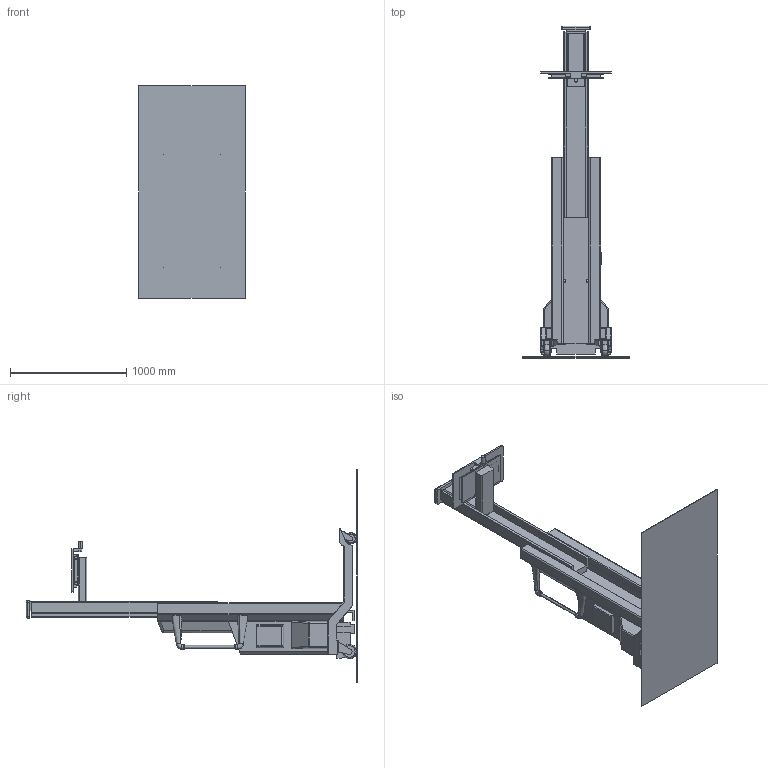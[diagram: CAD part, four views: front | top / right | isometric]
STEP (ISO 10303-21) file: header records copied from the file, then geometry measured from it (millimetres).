
FILE_DESCRIPTION (( 'STEP AP203' ), '1' );
FILE_NAME ('Simplified_SL-500X_Fully_Raised_Position_10-27-2023.STEP', '2023-10-27T22:20:38', ( '' ), ( '' ), 'SwSTEP 2.0', 'SolidWorks 2021', '' );
FILE_SCHEMA (( 'CONFIG_CONTROL_DESIGN' ));
Length unit declared in the file: millimetre
Products named in the file (12): RT-23168 Simplified Base Frame, SL500X; RT-23172 Simplified Caster, 5inch; RT-23166 Simplified Outer Column, SL500X; RT-23174 Platform Frame, Simplified, Side Loader; RT-23176 Assy, Simplified Side Loader Platform_Center; RT-23175 Platform Surface, Simplified, Side Loader; RT-23169 Simplified Sheet Metal and Covers, SL500X; RT-23165 Simplified Inner Column, SL500X; Simplified_SL-500X_Fully_Raised_Position_10-27-2023; RT-23171 Simplified Caster, 4inch; RT-23167 Assy, Simplified Base, SL500X; RT-23177 Floor Tile, 36x72in
Assembly tree (13 placements, depth 3):
  Simplified_SL-500X_Fully_Raised_Position_10-27-2023
    RT-23167 Assy, Simplified Base, SL500X
      RT-23168 Simplified Base Frame, SL500X
      RT-23172 Simplified Caster, 5inch  x2
      RT-23171 Simplified Caster, 4inch  x2
      RT-23177 Floor Tile, 36x72in
    RT-23166 Simplified Outer Column, SL500X
    RT-23165 Simplified Inner Column, SL500X
    RT-23176 Assy, Simplified Side Loader Platform_Center
      RT-23174 Platform Frame, Simplified, Side Loader
      RT-23175 Platform Surface, Simplified, Side Loader
    RT-23169 Simplified Sheet Metal and Covers, SL500X
Bounding box: 914.4 x 2858.76 x 1828.8 mm (x, y, z)
Volume: 237968788.5 mm3; surface area: 12081029.4 mm2
Topology: 11 solids, 11 shells, 570 faces, 1474 edges, 926 vertices
Faces by surface type: plane 344, cylinder 162, torus 32, sphere 24, bspline 8
Entity records: 18826 total; most frequent: CARTESIAN_POINT 4892, ORIENTED_EDGE 2652, DIRECTION 2628, EDGE_CURVE 1326, VECTOR 884, LINE 884, AXIS2_PLACEMENT_3D 872, VERTEX_POINT 838
